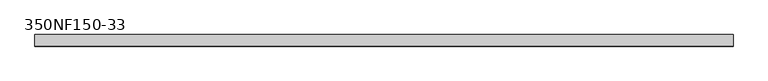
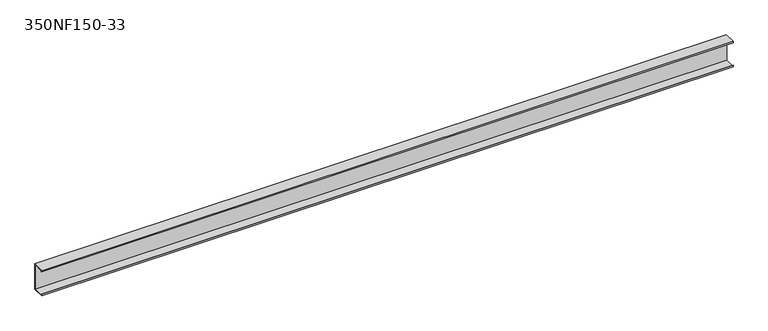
"""IFC4 building model written with IfcOpenShell, lengths in millimetres: beam geometry, BIMSF-SSMA-S : 350NF150-33."""

from ifc_helpers import new_model, si_unit, frame, origin, place, context, project, spatial, polyline, outline, extrude, source, transform, mapped, element, save


def beam_350nf150_33_3c31088f(model_context):
    return source(origin(), model_context, "Body", "SweptSolid", [
        extrude(outline(polyline([(19.05, 44.45), (19.05, -44.45), (-19.05, -44.45), (-19.05, -39.6748), (-18.1676842, -39.6748), (-18.1676842, -43.5676842), (18.1676842, -43.5676842), (18.1676842, 43.5676842), (-18.1676842, 43.5676842), (-18.1676842, 39.6748), (-19.05, 39.6748), (-19.05, 44.45), (19.05, 44.45)])), frame((-1147.7625, 0.0, 0.0), z_axis=(1.0, 0.0, 0.0), x_axis=(0.0, 1.0, 0.0)), (0.0, 0.0, 1.0), 2295.525),
    ])


if __name__ == "__main__":
    model = new_model("IFC4")
    model_context = context("Model", 3, world=origin())
    ifc_project = project(units=[si_unit("LENGTHUNIT", "METRE", prefix="MILLI")], contexts=[model_context])
    site = spatial("IfcSite", under=ifc_project)
    building = spatial("IfcBuilding", under=site)
    placement = place(None, origin())
    beam_350nf150_33_shape = beam_350nf150_33_3c31088f(model_context)
    element("IfcBeam", 1, ObjectType="BIMSF-SSMA-S : 350NF150-33", at=placement, inside=building, context=model_context, shape_type="MappedRepresentation", body=[
        mapped(beam_350nf150_33_shape, transform((0.0, 0.0, 0.0), x_axis=(1.0, 0.0, 0.0), y_axis=(0.0, 1.0, 0.0), z_axis=(0.0, 0.0, 1.0))),
    ])
    save(model, "model.ifc")
